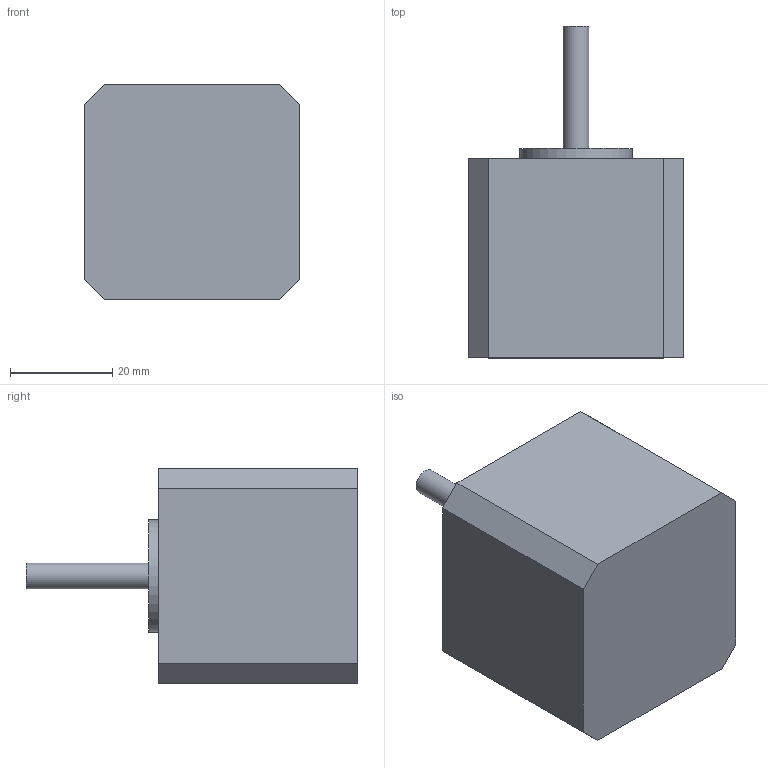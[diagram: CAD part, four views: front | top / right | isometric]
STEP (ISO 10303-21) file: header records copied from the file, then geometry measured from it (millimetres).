
FILE_DESCRIPTION(('FreeCAD Model'),'2;1');
FILE_NAME('Open CASCADE Shape Model','2023-05-06T18:44:57',('Author'),( ''),'Open CASCADE STEP processor 7.5','FreeCAD','Unknown');
FILE_SCHEMA(('AUTOMOTIVE_DESIGN { 1 0 10303 214 1 1 1 1 }'));
Length unit declared in the file: millimetre
Products named in the file (1): NEMO17 42.3mm
Bounding box: 42.3 x 65 x 42.3 mm (x, y, z)
Volume: 69208.7 mm3; surface area: 10949.3 mm2
Topology: 2 solids, 2 shells, 23 faces, 51 edges, 33 vertices
Faces by surface type: plane 13, cylinder 6, cone 4
Full cylindrical faces by diameter (mm): 3.4 x4, 5 x1, 22 x1
Entity records: 570 total; most frequent: DIRECTION 96, CARTESIAN_POINT 88, ORIENTED_EDGE 72, AXIS2_PLACEMENT_3D 36, EDGE_CURVE 36, EDGE_LOOP 34, FACE_OUTER_BOUND 29, VERTEX_POINT 28
